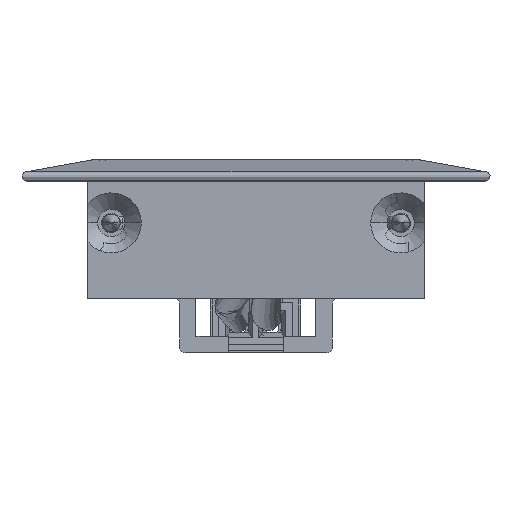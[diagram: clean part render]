
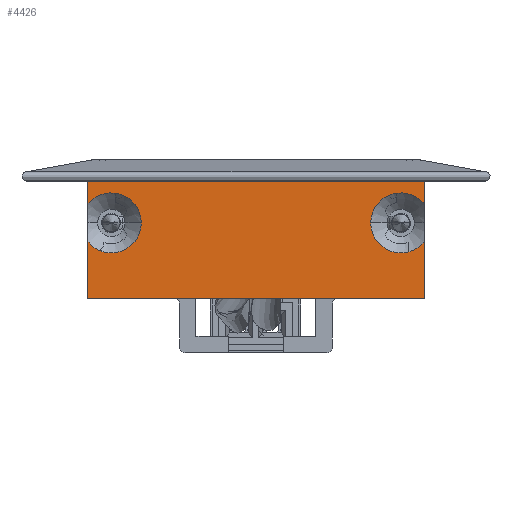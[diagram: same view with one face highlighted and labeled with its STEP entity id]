
A CAD part, front view. The second image highlights one B-rep face of the part: STEP entity #4426.
In plain terms, the highlighted planar face has unit normal (0, -1, 0).
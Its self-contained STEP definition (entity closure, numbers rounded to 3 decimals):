
#130 = ORIENTED_EDGE ( 'NONE', *, *, #10410, .T. ) ;
#136 = DIRECTION ( 'NONE',  ( -1., 0., 0. ) ) ;
#717 = CIRCLE ( 'NONE', #8451, 2.75 ) ;
#954 = DIRECTION ( 'NONE',  ( 0., 1., 0. ) ) ;
#1015 = LINE ( 'NONE', #3099, #3321 ) ;
#1564 = ORIENTED_EDGE ( 'NONE', *, *, #5796, .T. ) ;
#1600 = CARTESIAN_POINT ( 'NONE',  ( -149.342, -234.763, 5. ) ) ;
#1806 = VERTEX_POINT ( 'NONE', #5878 ) ;
#1898 = DIRECTION ( 'NONE',  ( 0., -1., 0. ) ) ;
#1946 = CARTESIAN_POINT ( 'NONE',  ( -164.742, -234.763, 5. ) ) ;
#2137 = DIRECTION ( 'NONE',  ( 0., 1., 0. ) ) ;
#2930 = AXIS2_PLACEMENT_3D ( 'NONE', #9377, #2137, #17946 ) ;
#3099 = CARTESIAN_POINT ( 'NONE',  ( -149.342, -234.763, 15.701 ) ) ;
#3290 = CIRCLE ( 'NONE', #15112, 2.75 ) ;
#3321 = VECTOR ( 'NONE', #8044, 1000. ) ;
#3485 = ORIENTED_EDGE ( 'NONE', *, *, #18219, .T. ) ;
#3956 = VECTOR ( 'NONE', #17890, 1000. ) ;
#4229 = CARTESIAN_POINT ( 'NONE',  ( -180.142, -234.763, 10.153 ) ) ;
#4426 = ADVANCED_FACE ( 'NONE', ( #14408 ), #19857, .T. ) ;
#4864 = VERTEX_POINT ( 'NONE', #8224 ) ;
#5123 = VERTEX_POINT ( 'NONE', #13220 ) ;
#5139 = VECTOR ( 'NONE', #7233, 1000. ) ;
#5379 = CIRCLE ( 'NONE', #19856, 2.75 ) ;
#5705 = VERTEX_POINT ( 'NONE', #19694 ) ;
#5796 = EDGE_CURVE ( 'NONE', #22066, #5705, #7892, .T. ) ;
#5878 = CARTESIAN_POINT ( 'NONE',  ( -154.233, -234.763, 11.878 ) ) ;
#6137 = EDGE_CURVE ( 'NONE', #19799, #18369, #5379, .T. ) ;
#6648 = DIRECTION ( 'NONE',  ( -1., 0., 0. ) ) ;
#7233 = DIRECTION ( 'NONE',  ( -1., 0., 0. ) ) ;
#7259 = EDGE_LOOP ( 'NONE', ( #18049, #14281, #3485, #12702, #1564, #18141, #14896, #130, #22249, #16273 ) ) ;
#7325 = LINE ( 'NONE', #22822, #14412 ) ;
#7892 = LINE ( 'NONE', #20589, #9987 ) ;
#8044 = DIRECTION ( 'NONE',  ( -1., 0., 0. ) ) ;
#8132 = DIRECTION ( 'NONE',  ( 0., 0., -1. ) ) ;
#8224 = CARTESIAN_POINT ( 'NONE',  ( -149.342, -234.763, 15.701 ) ) ;
#8338 = LINE ( 'NONE', #10219, #3956 ) ;
#8451 = AXIS2_PLACEMENT_3D ( 'NONE', #22594, #15274, #6648 ) ;
#8955 = LINE ( 'NONE', #1946, #5139 ) ;
#9044 = DIRECTION ( 'NONE',  ( 0., 0., 1. ) ) ;
#9089 = CARTESIAN_POINT ( 'NONE',  ( -149.342, -234.763, -22.59 ) ) ;
#9122 = DIRECTION ( 'NONE',  ( 1., 0., 0. ) ) ;
#9377 = CARTESIAN_POINT ( 'NONE',  ( -151.483, -234.763, 11.878 ) ) ;
#9448 = VERTEX_POINT ( 'NONE', #21909 ) ;
#9587 = EDGE_CURVE ( 'NONE', #18480, #1806, #3290, .T. ) ;
#9987 = VECTOR ( 'NONE', #8132, 1000. ) ;
#10108 = CARTESIAN_POINT ( 'NONE',  ( -149.342, -234.763, 10.153 ) ) ;
#10219 = CARTESIAN_POINT ( 'NONE',  ( -180.142, -234.763, 15.701 ) ) ;
#10336 = EDGE_CURVE ( 'NONE', #1806, #9448, #11796, .T. ) ;
#10410 = EDGE_CURVE ( 'NONE', #18369, #5123, #8338, .T. ) ;
#10683 = CARTESIAN_POINT ( 'NONE',  ( -164.742, -234.763, -3.579 ) ) ;
#10777 = EDGE_CURVE ( 'NONE', #20282, #5123, #8955, .T. ) ;
#11026 = EDGE_CURVE ( 'NONE', #5705, #19799, #717, .T. ) ;
#11796 = CIRCLE ( 'NONE', #2930, 2.75 ) ;
#12702 = ORIENTED_EDGE ( 'NONE', *, *, #18147, .T. ) ;
#13220 = CARTESIAN_POINT ( 'NONE',  ( -180.142, -234.763, 5. ) ) ;
#14281 = ORIENTED_EDGE ( 'NONE', *, *, #10336, .T. ) ;
#14408 = FACE_OUTER_BOUND ( 'NONE', #7259, .T. ) ;
#14412 = VECTOR ( 'NONE', #9044, 1000. ) ;
#14426 = AXIS2_PLACEMENT_3D ( 'NONE', #10683, #1898, #9122 ) ;
#14896 = ORIENTED_EDGE ( 'NONE', *, *, #6137, .T. ) ;
#15112 = AXIS2_PLACEMENT_3D ( 'NONE', #21548, #19619, #136 ) ;
#15274 = DIRECTION ( 'NONE',  ( 0., 1., 0. ) ) ;
#16273 = ORIENTED_EDGE ( 'NONE', *, *, #21413, .T. ) ;
#16326 = DIRECTION ( 'NONE',  ( 0., 0., 1. ) ) ;
#17101 = CARTESIAN_POINT ( 'NONE',  ( -180.142, -234.763, 15.701 ) ) ;
#17890 = DIRECTION ( 'NONE',  ( 0., 0., -1. ) ) ;
#17946 = DIRECTION ( 'NONE',  ( -1., 0., 0. ) ) ;
#18049 = ORIENTED_EDGE ( 'NONE', *, *, #9587, .T. ) ;
#18141 = ORIENTED_EDGE ( 'NONE', *, *, #11026, .T. ) ;
#18147 = EDGE_CURVE ( 'NONE', #4864, #22066, #1015, .T. ) ;
#18219 = EDGE_CURVE ( 'NONE', #9448, #4864, #7325, .T. ) ;
#18369 = VERTEX_POINT ( 'NONE', #4229 ) ;
#18480 = VERTEX_POINT ( 'NONE', #10108 ) ;
#18618 = CARTESIAN_POINT ( 'NONE',  ( -178., -234.763, 11.878 ) ) ;
#19619 = DIRECTION ( 'NONE',  ( 0., 1., 0. ) ) ;
#19694 = CARTESIAN_POINT ( 'NONE',  ( -180.142, -234.763, 13.604 ) ) ;
#19799 = VERTEX_POINT ( 'NONE', #22112 ) ;
#19856 = AXIS2_PLACEMENT_3D ( 'NONE', #18618, #954, #22187 ) ;
#19857 = PLANE ( 'NONE',  #14426 ) ;
#20282 = VERTEX_POINT ( 'NONE', #1600 ) ;
#20589 = CARTESIAN_POINT ( 'NONE',  ( -180.142, -234.763, 15.701 ) ) ;
#21413 = EDGE_CURVE ( 'NONE', #20282, #18480, #21450, .T. ) ;
#21450 = LINE ( 'NONE', #9089, #21721 ) ;
#21548 = CARTESIAN_POINT ( 'NONE',  ( -151.483, -234.763, 11.878 ) ) ;
#21721 = VECTOR ( 'NONE', #16326, 1000. ) ;
#21909 = CARTESIAN_POINT ( 'NONE',  ( -149.342, -234.763, 13.604 ) ) ;
#22066 = VERTEX_POINT ( 'NONE', #17101 ) ;
#22112 = CARTESIAN_POINT ( 'NONE',  ( -175.25, -234.763, 11.878 ) ) ;
#22187 = DIRECTION ( 'NONE',  ( -1., 0., 0. ) ) ;
#22249 = ORIENTED_EDGE ( 'NONE', *, *, #10777, .F. ) ;
#22594 = CARTESIAN_POINT ( 'NONE',  ( -178., -234.763, 11.878 ) ) ;
#22822 = CARTESIAN_POINT ( 'NONE',  ( -149.342, -234.763, -22.59 ) ) ;
